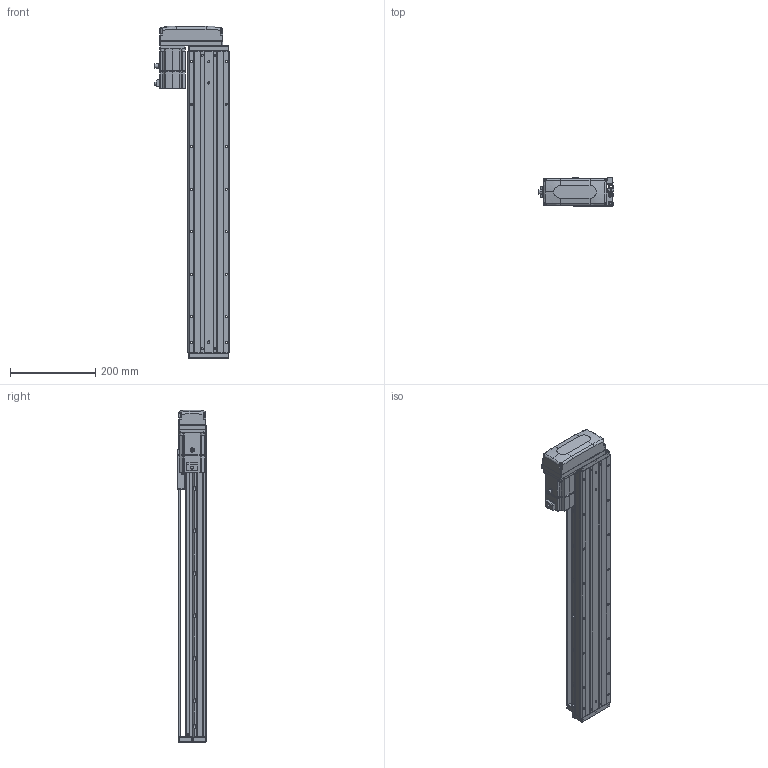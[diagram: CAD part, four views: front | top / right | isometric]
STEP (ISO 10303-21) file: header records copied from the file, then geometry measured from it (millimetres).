
FILE_DESCRIPTION (( 'STEP AP203' ), '1' );
FILE_NAME ('KTHA100-550-BR-M20-C4L.step', '2022-04-26T02:00:20', ( '微软用户' ), ( '微软中国' ), 'SwSTEP 2.0', 'SolidWorks 2020', '' );
FILE_SCHEMA (( 'CONFIG_CONTROL_DESIGN' ));
Length unit declared in the file: millimetre
Products named in the file (17): GB¨uT 70.2-M3¡Á5_M3¡Á6; CTHA60-016; EE_SX911P_R; GBT 70.3-M3℅6; CTHA60-017; _X2_4E0983F1_X0_200W_1; KTHA100-001_710; CTHA60-021; CTHA86-015-1_CTHA86-015-2; KTHA100-002; GBT77-2000 M3×3; CTHA86-033; KTHA100-004; GBT 70.1-M3℅6; KTHA100-550-BR-M20-C4L; KTHA100-005; GBT70.1 M5℅16
Assembly tree (57 placements, depth 2):
  KTHA100-550-BR-M20-C4L
    KTHA100-001_710
    KTHA100-002
    KTHA100-004
    KTHA100-005
    GB¨uT 70.2-M3¡Á5_M3¡Á6  x6
    EE_SX911P_R  x3
    CTHA60-017  x3
    CTHA60-021  x2
    GBT77-2000 M3×3  x6
    GBT 70.1-M3℅6  x10
    GBT70.1 M5℅16  x14
    CTHA60-016  x2
    GBT 70.3-M3℅6  x4
    _X2_4E0983F1_X0_200W_1
    CTHA86-015-1_CTHA86-015-2
    CTHA86-033
Bounding box: 178.52 x 68 x 781 mm (x, y, z)
Volume: 3514643.1 mm3; surface area: 575944.8 mm2
Topology: 60 solids, 60 shells, 2437 faces, 5833 edges, 3616 vertices
Faces by surface type: plane 1244, cylinder 677, cone 309, torus 116, bspline 75, sphere 16
Entity records: 41948 total; most frequent: CARTESIAN_POINT 8448, DIRECTION 6492, ORIENTED_EDGE 6278, EDGE_CURVE 3139, AXIS2_PLACEMENT_3D 2268, VERTEX_POINT 1976, VECTOR 1956, LINE 1956
